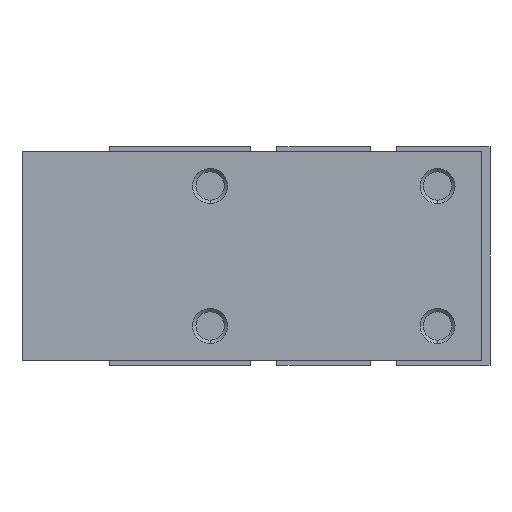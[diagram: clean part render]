
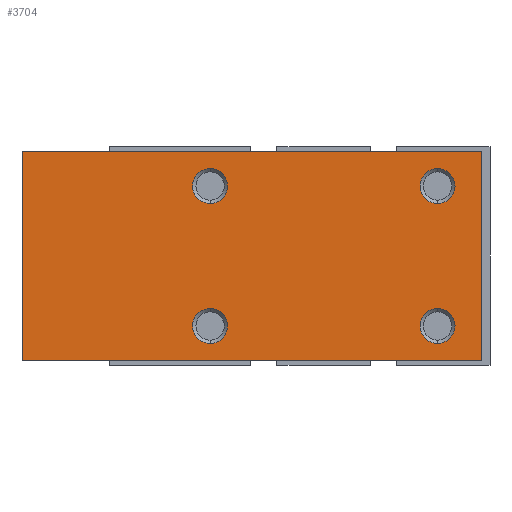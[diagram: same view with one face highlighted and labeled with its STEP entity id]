
A CAD part, left-side view. The second image highlights one B-rep face of the part: STEP entity #3704.
In plain terms, the highlighted planar face has unit normal (-1, 0, 0).
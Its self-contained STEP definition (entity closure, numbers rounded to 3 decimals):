
#33 = VECTOR ( 'NONE', #3935, 1000. ) ;
#70 = DIRECTION ( 'NONE',  ( -1., 0., 0. ) ) ;
#144 = AXIS2_PLACEMENT_3D ( 'NONE', #5271, #580, #5635 ) ;
#167 = CARTESIAN_POINT ( 'NONE',  ( -14., -13., 8. ) ) ;
#201 = CARTESIAN_POINT ( 'NONE',  ( -14., 13., -6. ) ) ;
#261 = CIRCLE ( 'NONE', #3794, 2. ) ;
#300 = ORIENTED_EDGE ( 'NONE', *, *, #2632, .T. ) ;
#378 = DIRECTION ( 'NONE',  ( 0., 0., -1. ) ) ;
#514 = EDGE_LOOP ( 'NONE', ( #3494, #4070 ) ) ;
#580 = DIRECTION ( 'NONE',  ( -1., 0., 0. ) ) ;
#591 = CARTESIAN_POINT ( 'NONE',  ( -14., -13., -8. ) ) ;
#600 = EDGE_LOOP ( 'NONE', ( #5400, #2841 ) ) ;
#686 = VERTEX_POINT ( 'NONE', #4855 ) ;
#832 = VERTEX_POINT ( 'NONE', #5421 ) ;
#930 = CIRCLE ( 'NONE', #3322, 2. ) ;
#1027 = EDGE_LOOP ( 'NONE', ( #5227, #5096 ) ) ;
#1108 = CARTESIAN_POINT ( 'NONE',  ( -14., 34.5, -12. ) ) ;
#1173 = FACE_BOUND ( 'NONE', #514, .T. ) ;
#1212 = CIRCLE ( 'NONE', #2073, 2. ) ;
#1399 = DIRECTION ( 'NONE',  ( -1., 0., 0. ) ) ;
#1428 = VERTEX_POINT ( 'NONE', #4459 ) ;
#1577 = CIRCLE ( 'NONE', #2336, 2. ) ;
#1589 = EDGE_CURVE ( 'NONE', #1977, #4626, #3497, .T. ) ;
#1612 = EDGE_CURVE ( 'NONE', #4626, #1977, #1212, .T. ) ;
#1643 = EDGE_CURVE ( 'NONE', #4421, #4576, #261, .T. ) ;
#1698 = CARTESIAN_POINT ( 'NONE',  ( -14., 34.5, 12. ) ) ;
#1822 = DIRECTION ( 'NONE',  ( 0., 0., 1. ) ) ;
#1890 = EDGE_CURVE ( 'NONE', #4122, #1428, #930, .T. ) ;
#1977 = VERTEX_POINT ( 'NONE', #201 ) ;
#1989 = DIRECTION ( 'NONE',  ( 0., 0., 1. ) ) ;
#2024 = CARTESIAN_POINT ( 'NONE',  ( -14., 13., 10. ) ) ;
#2047 = CIRCLE ( 'NONE', #3566, 2. ) ;
#2073 = AXIS2_PLACEMENT_3D ( 'NONE', #2667, #3241, #1822 ) ;
#2125 = AXIS2_PLACEMENT_3D ( 'NONE', #1698, #2992, #5353 ) ;
#2206 = FACE_BOUND ( 'NONE', #2284, .T. ) ;
#2222 = AXIS2_PLACEMENT_3D ( 'NONE', #3673, #1399, #4084 ) ;
#2236 = CARTESIAN_POINT ( 'NONE',  ( -14., -18., -12. ) ) ;
#2246 = CARTESIAN_POINT ( 'NONE',  ( -14., 13., 8. ) ) ;
#2284 = EDGE_LOOP ( 'NONE', ( #4866, #2890 ) ) ;
#2336 = AXIS2_PLACEMENT_3D ( 'NONE', #2246, #70, #5454 ) ;
#2415 = DIRECTION ( 'NONE',  ( -1., 0., 0. ) ) ;
#2453 = EDGE_CURVE ( 'NONE', #3167, #2766, #4085, .T. ) ;
#2581 = CARTESIAN_POINT ( 'NONE',  ( -14., 13., -10. ) ) ;
#2612 = CIRCLE ( 'NONE', #2222, 2. ) ;
#2632 = EDGE_CURVE ( 'NONE', #2766, #5049, #5119, .T. ) ;
#2656 = CARTESIAN_POINT ( 'NONE',  ( -14., 34.5, 12. ) ) ;
#2667 = CARTESIAN_POINT ( 'NONE',  ( -14., 13., -8. ) ) ;
#2766 = VERTEX_POINT ( 'NONE', #3431 ) ;
#2841 = ORIENTED_EDGE ( 'NONE', *, *, #3139, .F. ) ;
#2890 = ORIENTED_EDGE ( 'NONE', *, *, #1612, .F. ) ;
#2920 = ORIENTED_EDGE ( 'NONE', *, *, #2453, .T. ) ;
#2923 = DIRECTION ( 'NONE',  ( 0., 0., 1. ) ) ;
#2990 = VECTOR ( 'NONE', #4868, 1000. ) ;
#2992 = DIRECTION ( 'NONE',  ( 1., 0., 0. ) ) ;
#3139 = EDGE_CURVE ( 'NONE', #4576, #4421, #2047, .T. ) ;
#3167 = VERTEX_POINT ( 'NONE', #4038 ) ;
#3222 = ORIENTED_EDGE ( 'NONE', *, *, #4534, .F. ) ;
#3241 = DIRECTION ( 'NONE',  ( -1., 0., 0. ) ) ;
#3310 = CARTESIAN_POINT ( 'NONE',  ( -14., -13., 6. ) ) ;
#3322 = AXIS2_PLACEMENT_3D ( 'NONE', #591, #2415, #2923 ) ;
#3394 = LINE ( 'NONE', #5220, #3947 ) ;
#3395 = DIRECTION ( 'NONE',  ( -1., 0., 0. ) ) ;
#3410 = EDGE_CURVE ( 'NONE', #4062, #832, #1577, .T. ) ;
#3430 = CARTESIAN_POINT ( 'NONE',  ( -14., -18., 12. ) ) ;
#3431 = CARTESIAN_POINT ( 'NONE',  ( -14., 34.5, -12. ) ) ;
#3494 = ORIENTED_EDGE ( 'NONE', *, *, #3410, .F. ) ;
#3497 = CIRCLE ( 'NONE', #3973, 2. ) ;
#3529 = EDGE_CURVE ( 'NONE', #1428, #4122, #5118, .T. ) ;
#3566 = AXIS2_PLACEMENT_3D ( 'NONE', #167, #3395, #1989 ) ;
#3598 = EDGE_LOOP ( 'NONE', ( #300, #4701, #3222, #2920 ) ) ;
#3650 = DIRECTION ( 'NONE',  ( 0., 0., 1. ) ) ;
#3673 = CARTESIAN_POINT ( 'NONE',  ( -14., 13., 8. ) ) ;
#3704 = ADVANCED_FACE ( 'NONE', ( #4426, #2206, #3972, #4029, #1173 ), #5805, .F. ) ;
#3752 = DIRECTION ( 'NONE',  ( 0., -1., 0. ) ) ;
#3760 = CARTESIAN_POINT ( 'NONE',  ( -14., -13., -6. ) ) ;
#3794 = AXIS2_PLACEMENT_3D ( 'NONE', #5930, #4484, #3650 ) ;
#3904 = VECTOR ( 'NONE', #378, 1000. ) ;
#3934 = LINE ( 'NONE', #3430, #2990 ) ;
#3935 = DIRECTION ( 'NONE',  ( 0., -1., 0. ) ) ;
#3947 = VECTOR ( 'NONE', #3752, 1000. ) ;
#3972 = FACE_BOUND ( 'NONE', #600, .T. ) ;
#3973 = AXIS2_PLACEMENT_3D ( 'NONE', #5422, #4096, #4033 ) ;
#3974 = EDGE_CURVE ( 'NONE', #832, #4062, #2612, .T. ) ;
#4029 = FACE_BOUND ( 'NONE', #1027, .T. ) ;
#4033 = DIRECTION ( 'NONE',  ( 0., 0., 1. ) ) ;
#4038 = CARTESIAN_POINT ( 'NONE',  ( -14., 34.5, 12. ) ) ;
#4044 = CARTESIAN_POINT ( 'NONE',  ( -14., -13., 10. ) ) ;
#4062 = VERTEX_POINT ( 'NONE', #2024 ) ;
#4070 = ORIENTED_EDGE ( 'NONE', *, *, #3974, .F. ) ;
#4084 = DIRECTION ( 'NONE',  ( 0., 0., 1. ) ) ;
#4085 = LINE ( 'NONE', #2656, #3904 ) ;
#4096 = DIRECTION ( 'NONE',  ( -1., 0., 0. ) ) ;
#4122 = VERTEX_POINT ( 'NONE', #3760 ) ;
#4200 = EDGE_CURVE ( 'NONE', #686, #5049, #3934, .T. ) ;
#4421 = VERTEX_POINT ( 'NONE', #4044 ) ;
#4426 = FACE_OUTER_BOUND ( 'NONE', #3598, .T. ) ;
#4459 = CARTESIAN_POINT ( 'NONE',  ( -14., -13., -10. ) ) ;
#4484 = DIRECTION ( 'NONE',  ( -1., 0., 0. ) ) ;
#4534 = EDGE_CURVE ( 'NONE', #3167, #686, #3394, .T. ) ;
#4576 = VERTEX_POINT ( 'NONE', #3310 ) ;
#4626 = VERTEX_POINT ( 'NONE', #2581 ) ;
#4701 = ORIENTED_EDGE ( 'NONE', *, *, #4200, .F. ) ;
#4855 = CARTESIAN_POINT ( 'NONE',  ( -14., -18., 12. ) ) ;
#4866 = ORIENTED_EDGE ( 'NONE', *, *, #1589, .F. ) ;
#4868 = DIRECTION ( 'NONE',  ( 0., 0., -1. ) ) ;
#5049 = VERTEX_POINT ( 'NONE', #2236 ) ;
#5096 = ORIENTED_EDGE ( 'NONE', *, *, #3529, .F. ) ;
#5118 = CIRCLE ( 'NONE', #144, 2. ) ;
#5119 = LINE ( 'NONE', #1108, #33 ) ;
#5220 = CARTESIAN_POINT ( 'NONE',  ( -14., 34.5, 12. ) ) ;
#5227 = ORIENTED_EDGE ( 'NONE', *, *, #1890, .F. ) ;
#5271 = CARTESIAN_POINT ( 'NONE',  ( -14., -13., -8. ) ) ;
#5353 = DIRECTION ( 'NONE',  ( 0., 1., 0. ) ) ;
#5400 = ORIENTED_EDGE ( 'NONE', *, *, #1643, .F. ) ;
#5421 = CARTESIAN_POINT ( 'NONE',  ( -14., 13., 6. ) ) ;
#5422 = CARTESIAN_POINT ( 'NONE',  ( -14., 13., -8. ) ) ;
#5454 = DIRECTION ( 'NONE',  ( 0., 0., 1. ) ) ;
#5635 = DIRECTION ( 'NONE',  ( 0., 0., 1. ) ) ;
#5805 = PLANE ( 'NONE',  #2125 ) ;
#5930 = CARTESIAN_POINT ( 'NONE',  ( -14., -13., 8. ) ) ;
